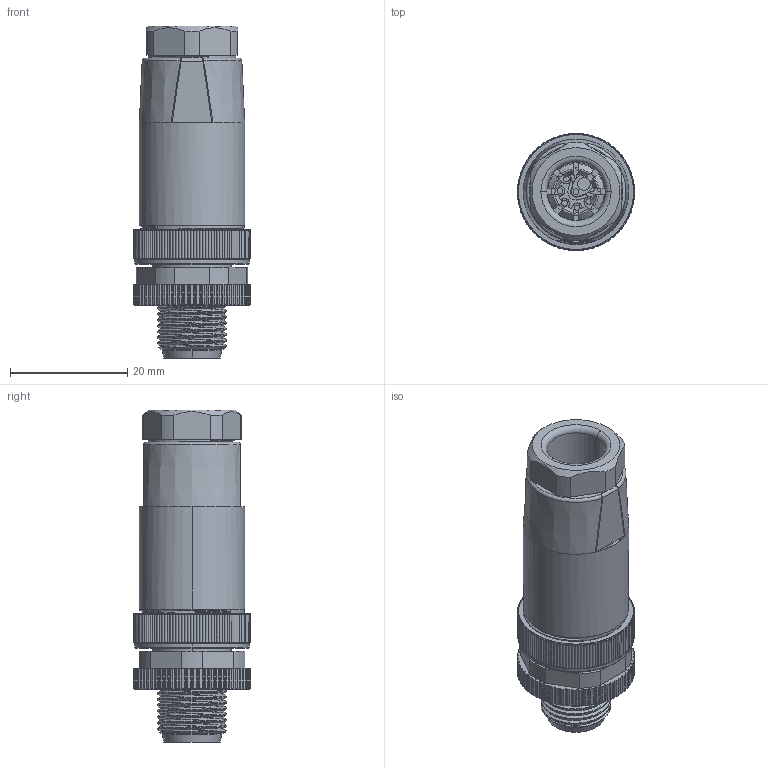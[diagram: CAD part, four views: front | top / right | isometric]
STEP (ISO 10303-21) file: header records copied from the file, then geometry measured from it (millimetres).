
FILE_DESCRIPTION((''),'2;1');
FILE_NAME('XC-M12-WK-PG9','2025-06-23T10:05:58',('lyj'),(''),'CREO PARAMETRIC BY PTC INC, 2019010','CREO PARAMETRIC BY PTC INC, 2019010','');
FILE_SCHEMA(('CONFIG_CONTROL_DESIGN'));
Products named in the file (1): XC-M12-WK-PG9
Bounding box: 20 x 20 x 56.7 mm (x, y, z)
Volume: 8527.1 mm3; surface area: 12748.1 mm2
Topology: 1 solids, 27 shells, 1800 faces, 5022 edges, 3292 vertices
Faces by surface type: cylinder 771, plane 443, cone 384, bspline 92, extrusion 56, torus 34, sphere 20
Entity records: 91333 total; most frequent: CARTESIAN_POINT 47146, ORIENTED_EDGE 10004, DIRECTION 8273, EDGE_CURVE 5002, VERTEX_POINT 3292, AXIS2_PLACEMENT_3D 3221, EDGE_LOOP 1906, VECTOR 1831
